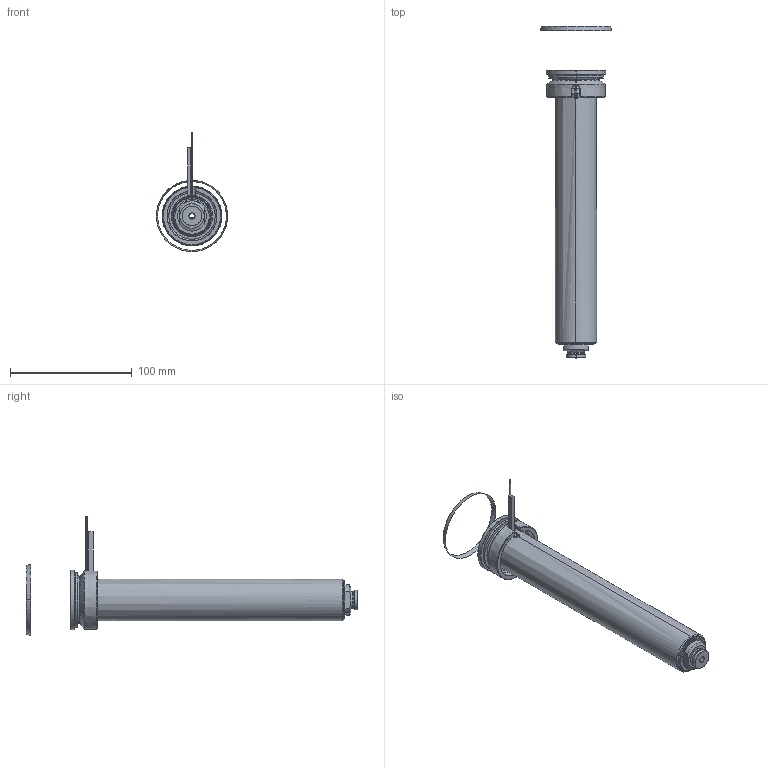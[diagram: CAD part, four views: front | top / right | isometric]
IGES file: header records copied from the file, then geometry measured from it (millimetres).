
Start section: SolidWorks IGES file using analytic representation for surfaces
Global section: file name: C:\Documents and Settings\ws-20\Desktop\TEMPORANEA\UGBE5005-S-A-5 [Ød-3.5 P-0 ØC-13].IGS; native system: SolidWorks 2012; preprocessor: SolidWorks 2012; author: ws-20; date: 120306.163026; units: millimetre
Bounding box: 58.57 x 272.44 x 97.91 mm (x, y, z)
Surface area: 89029.8 mm2 (no closed solid volume)
Topology: 0 solids, 0 shells, 110 faces, 2116 edges, 2116 vertices
Faces by surface type: revolution 67, bspline 43
